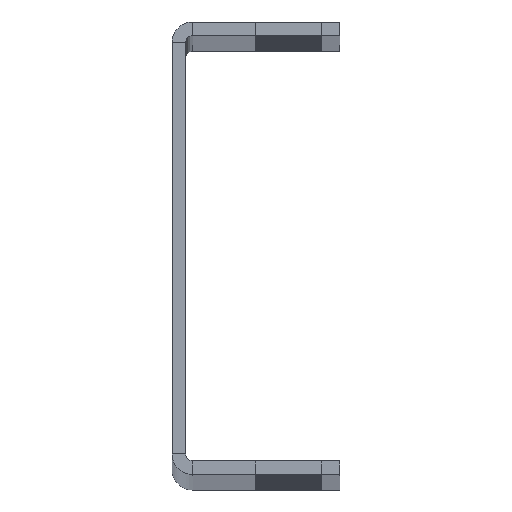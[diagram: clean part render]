
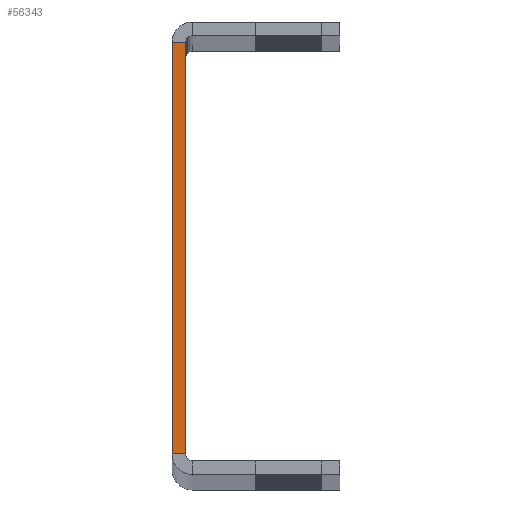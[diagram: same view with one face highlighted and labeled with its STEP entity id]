
A CAD part, top view. The second image highlights one B-rep face of the part: STEP entity #56343.
In plain terms, the highlighted planar face has unit normal (0, 0, 1).
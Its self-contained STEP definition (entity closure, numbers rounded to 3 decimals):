
#639 = EDGE_CURVE ( 'NONE', #9981, #9117, #15610, .T. ) ;
#2298 = AXIS2_PLACEMENT_3D ( 'NONE', #56020, #55418, #50674 ) ;
#6976 = FACE_OUTER_BOUND ( 'NONE', #28061, .T. ) ;
#9117 = VERTEX_POINT ( 'NONE', #61535 ) ;
#9981 = VERTEX_POINT ( 'NONE', #33456 ) ;
#10520 = EDGE_CURVE ( 'NONE', #25729, #9981, #44284, .T. ) ;
#11633 = ORIENTED_EDGE ( 'NONE', *, *, #21303, .F. ) ;
#14156 = DIRECTION ( 'NONE',  ( 0., 1., 0. ) ) ;
#14356 = CARTESIAN_POINT ( 'NONE',  ( 2., 0., 1295. ) ) ;
#14437 = ORIENTED_EDGE ( 'NONE', *, *, #10520, .T. ) ;
#15351 = VECTOR ( 'NONE', #43091, 1000. ) ;
#15610 = LINE ( 'NONE', #55526, #24535 ) ;
#21303 = EDGE_CURVE ( 'NONE', #47506, #9117, #59392, .T. ) ;
#22827 = PLANE ( 'NONE',  #2298 ) ;
#24081 = CARTESIAN_POINT ( 'NONE',  ( 2., 3., 1295. ) ) ;
#24535 = VECTOR ( 'NONE', #45608, 1000. ) ;
#24586 = DIRECTION ( 'NONE',  ( 0., 1., 0. ) ) ;
#25729 = VERTEX_POINT ( 'NONE', #24081 ) ;
#28061 = EDGE_LOOP ( 'NONE', ( #11633, #42586, #14437, #55055 ) ) ;
#28652 = VECTOR ( 'NONE', #14156, 1000. ) ;
#33456 = CARTESIAN_POINT ( 'NONE',  ( 2., 63., 1295. ) ) ;
#33758 = EDGE_CURVE ( 'NONE', #47506, #25729, #61390, .T. ) ;
#37506 = CARTESIAN_POINT ( 'NONE',  ( 0., 0., 1295. ) ) ;
#42586 = ORIENTED_EDGE ( 'NONE', *, *, #33758, .T. ) ;
#43091 = DIRECTION ( 'NONE',  ( 1., 0., 0. ) ) ;
#44284 = LINE ( 'NONE', #14356, #28652 ) ;
#45608 = DIRECTION ( 'NONE',  ( -1., 0., 0. ) ) ;
#47506 = VERTEX_POINT ( 'NONE', #60606 ) ;
#50674 = DIRECTION ( 'NONE',  ( 1., 0., 0. ) ) ;
#51258 = VECTOR ( 'NONE', #24586, 1000. ) ;
#51387 = CARTESIAN_POINT ( 'NONE',  ( 0., 3., 1295. ) ) ;
#55055 = ORIENTED_EDGE ( 'NONE', *, *, #639, .T. ) ;
#55418 = DIRECTION ( 'NONE',  ( 0., 0., 1. ) ) ;
#55526 = CARTESIAN_POINT ( 'NONE',  ( 2., 63., 1295. ) ) ;
#56020 = CARTESIAN_POINT ( 'NONE',  ( 3., 2., 1295. ) ) ;
#56343 = ADVANCED_FACE ( 'NONE', ( #6976 ), #22827, .T. ) ;
#59392 = LINE ( 'NONE', #37506, #51258 ) ;
#60606 = CARTESIAN_POINT ( 'NONE',  ( 0., 3., 1295. ) ) ;
#61390 = LINE ( 'NONE', #51387, #15351 ) ;
#61535 = CARTESIAN_POINT ( 'NONE',  ( 0., 63., 1295. ) ) ;
